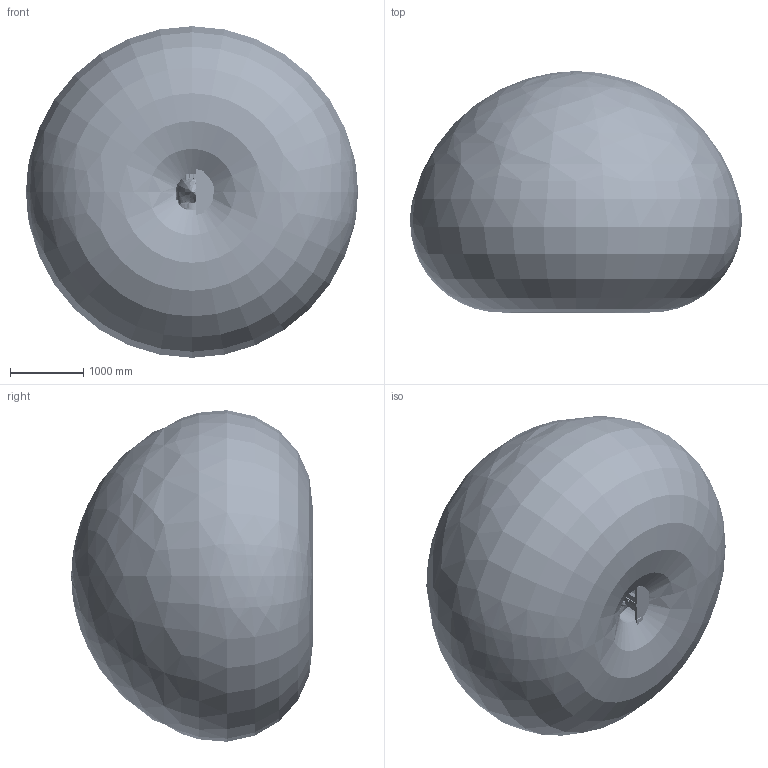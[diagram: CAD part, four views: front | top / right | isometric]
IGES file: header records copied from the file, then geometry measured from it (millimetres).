
Global section: file name: C:\DISCO_LAVORO\ATTIVITA_APRILE\CONVERSIONI\GUIDO/N-220-2.7.igs; native system: CT CoreTechnologie 3D Evolution; preprocessor: 2006; organization: GROUP; date: 1220304.121952; units: millimetre
Bounding box: 4540.86 x 3299.2 x 4535.77 mm (x, y, z)
Surface area: 77938509.7 mm2 (no closed solid volume)
Topology: 0 solids, 0 shells, 6840 faces, 36821 edges, 36743 vertices
Faces by surface type: bspline 6840
